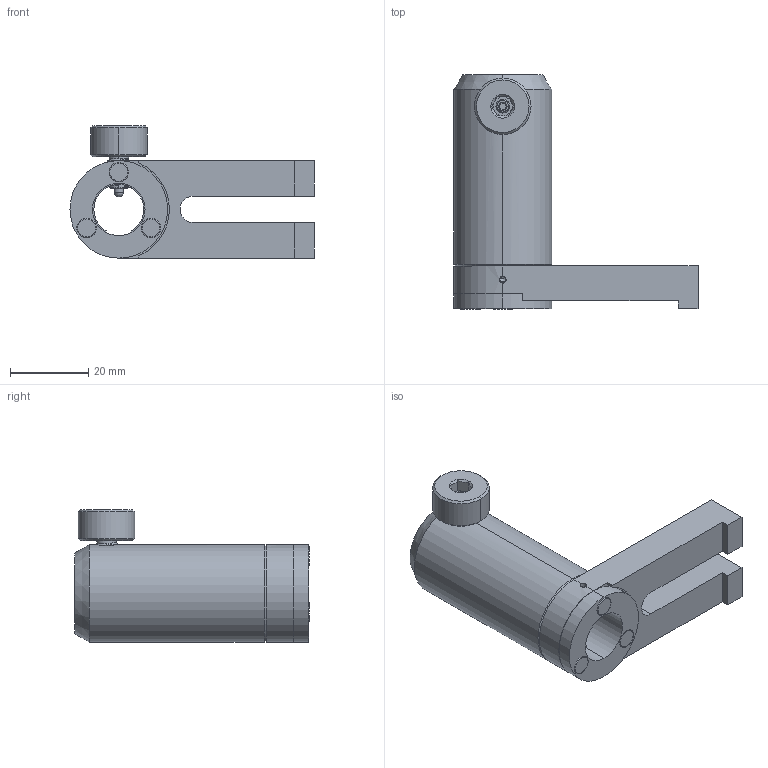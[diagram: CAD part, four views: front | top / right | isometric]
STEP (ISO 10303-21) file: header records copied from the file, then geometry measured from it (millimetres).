
FILE_DESCRIPTION((''),'2;1');
FILE_NAME('CA60-XC_ASM','2020-12-21T',('Administrator'),(''),'CREO PARAMETRIC BY PTC INC, 2015290','CREO PARAMETRIC BY PTC INC, 2015290','');
FILE_SCHEMA(('CONFIG_CONTROL_DESIGN'));
Length unit declared in the file: millimetre
Products named in the file (9): CAXX-XC_A2; CAXX-XC_A3; MAGNET_5X3; CA60-XC_A1; M6_SCREW_1; SPRING_3X6; M4X3_HS_2; M6_SCREW_2; CA60-XC_ASM
Assembly tree (10 placements, depth 2):
  CA60-XC_ASM
    CAXX-XC_A2
    CAXX-XC_A3
    MAGNET_5X3  x3
    CA60-XC_A1
    M6_SCREW_1
    SPRING_3X6
    M4X3_HS_2
    M6_SCREW_2
Bounding box: 62.5 x 60.13 x 33.89 mm (x, y, z)
Volume: 29036.2 mm3; surface area: 15450.4 mm2
Topology: 10 solids, 10 shells, 277 faces, 687 edges, 438 vertices
Faces by surface type: cylinder 122, plane 78, bspline 35, cone 28, torus 12, sphere 2
Entity records: 25597 total; most frequent: CARTESIAN_POINT 19511, ORIENTED_EDGE 1306, DIRECTION 1081, EDGE_CURVE 653, VERTEX_POINT 422, AXIS2_PLACEMENT_3D 397, EDGE_LOOP 289, VECTOR 287
